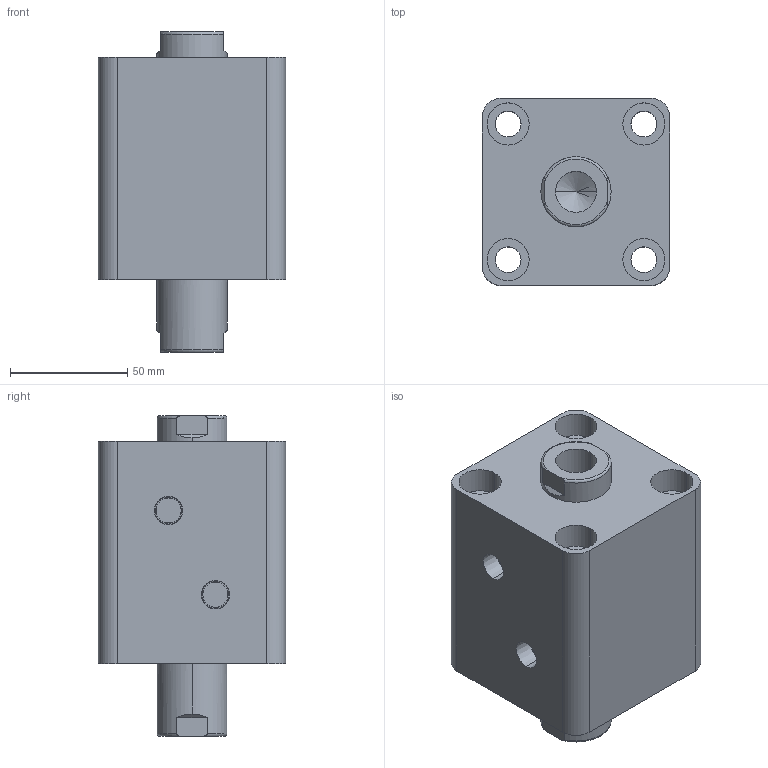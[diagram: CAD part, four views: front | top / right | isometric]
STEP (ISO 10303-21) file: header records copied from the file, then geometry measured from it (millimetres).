
FILE_DESCRIPTION (( 'STEP AP203' ), '1' );
FILE_NAME ('HTB-SW50-20N.STEP', '2019-10-07T09:18:03', ( '微软用户' ), ( '微软中国' ), 'SwSTEP 2.0', 'SolidWorks 2012', '' );
FILE_SCHEMA (( 'CONFIG_CONTROL_DESIGN' ));
Length unit declared in the file: millimetre
Products named in the file (3): HTB-SW50-20掛极; HTB-SW50-20N; HTB-SW50-20N活塞杆
Assembly tree (2 placements, depth 2):
  HTB-SW50-20N
    HTB-SW50-20掛极
    HTB-SW50-20N活塞杆
Bounding box: 80 x 80 x 137 mm (x, y, z)
Volume: 541814 mm3; surface area: 90276.3 mm2
Topology: 2 solids, 2 shells, 100 faces, 228 edges, 146 vertices
Faces by surface type: cylinder 48, plane 32, torus 12, cone 8
Entity records: 3237 total; most frequent: CARTESIAN_POINT 595, DIRECTION 542, ORIENTED_EDGE 448, AXIS2_PLACEMENT_3D 229, EDGE_CURVE 224, VERTEX_POINT 146, EDGE_LOOP 128, CIRCLE 124
